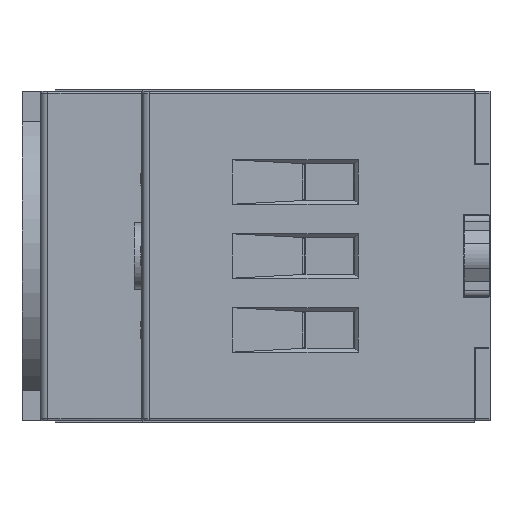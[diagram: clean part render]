
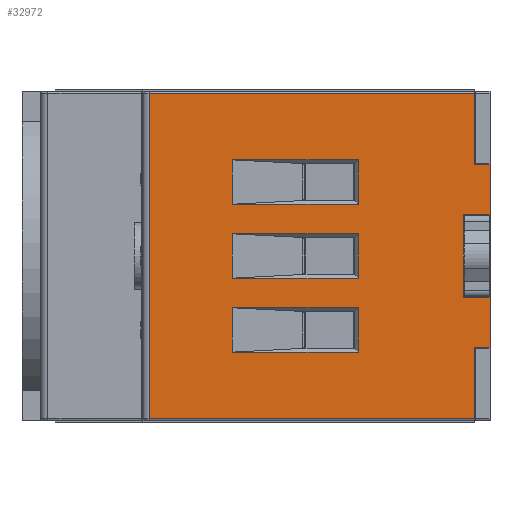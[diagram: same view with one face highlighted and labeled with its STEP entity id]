
A CAD part, left-side view. The second image highlights one B-rep face of the part: STEP entity #32972.
In plain terms, the highlighted planar face has unit normal (-1, 0, 0).
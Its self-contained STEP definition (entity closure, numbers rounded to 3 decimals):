
#3923=ORIENTED_EDGE('',*,*,#12739,.T.);
#3924=ORIENTED_EDGE('',*,*,#12740,.F.);
#3925=ORIENTED_EDGE('',*,*,#12741,.F.);
#3926=ORIENTED_EDGE('',*,*,#12742,.F.);
#3927=ORIENTED_EDGE('',*,*,#12743,.T.);
#3928=ORIENTED_EDGE('',*,*,#12744,.F.);
#3929=ORIENTED_EDGE('',*,*,#12745,.F.);
#3930=ORIENTED_EDGE('',*,*,#12746,.F.);
#3931=ORIENTED_EDGE('',*,*,#12747,.T.);
#3932=ORIENTED_EDGE('',*,*,#12748,.F.);
#3933=ORIENTED_EDGE('',*,*,#12749,.F.);
#3934=ORIENTED_EDGE('',*,*,#12750,.F.);
#3935=ORIENTED_EDGE('',*,*,#12751,.T.);
#3936=ORIENTED_EDGE('',*,*,#12752,.F.);
#3937=ORIENTED_EDGE('',*,*,#12753,.F.);
#3938=ORIENTED_EDGE('',*,*,#12754,.F.);
#3939=ORIENTED_EDGE('',*,*,#12755,.T.);
#3940=ORIENTED_EDGE('',*,*,#12756,.T.);
#3941=ORIENTED_EDGE('',*,*,#12757,.T.);
#3942=ORIENTED_EDGE('',*,*,#12758,.T.);
#3943=ORIENTED_EDGE('',*,*,#12576,.T.);
#3944=ORIENTED_EDGE('',*,*,#12580,.T.);
#3945=ORIENTED_EDGE('',*,*,#12759,.T.);
#3946=ORIENTED_EDGE('',*,*,#12760,.T.);
#12576=EDGE_CURVE('',#17455,#17456,#21082,.T.);
#12580=EDGE_CURVE('',#17456,#17459,#21086,.T.);
#12739=EDGE_CURVE('',#17599,#17600,#21217,.T.);
#12740=EDGE_CURVE('',#17601,#17600,#21218,.T.);
#12741=EDGE_CURVE('',#17602,#17601,#21219,.T.);
#12742=EDGE_CURVE('',#17599,#17602,#21220,.T.);
#12743=EDGE_CURVE('',#17603,#17604,#21221,.T.);
#12744=EDGE_CURVE('',#17605,#17604,#21222,.T.);
#12745=EDGE_CURVE('',#17606,#17605,#21223,.T.);
#12746=EDGE_CURVE('',#17603,#17606,#21224,.T.);
#12747=EDGE_CURVE('',#17607,#17608,#21225,.T.);
#12748=EDGE_CURVE('',#17609,#17608,#21226,.T.);
#12749=EDGE_CURVE('',#17610,#17609,#21227,.T.);
#12750=EDGE_CURVE('',#17607,#17610,#21228,.T.);
#12751=EDGE_CURVE('',#17611,#17612,#21229,.T.);
#12752=EDGE_CURVE('',#17613,#17612,#21230,.T.);
#12753=EDGE_CURVE('',#17614,#17613,#21231,.T.);
#12754=EDGE_CURVE('',#17615,#17614,#21232,.T.);
#12755=EDGE_CURVE('',#17615,#17616,#21233,.T.);
#12756=EDGE_CURVE('',#17616,#17617,#21234,.T.);
#12757=EDGE_CURVE('',#17617,#17618,#21235,.T.);
#12758=EDGE_CURVE('',#17618,#17455,#21236,.T.);
#12759=EDGE_CURVE('',#17459,#17619,#21237,.T.);
#12760=EDGE_CURVE('',#17619,#17611,#21238,.T.);
#17455=VERTEX_POINT('',#57811);
#17456=VERTEX_POINT('',#57812);
#17459=VERTEX_POINT('',#57820);
#17599=VERTEX_POINT('',#58162);
#17600=VERTEX_POINT('',#58163);
#17601=VERTEX_POINT('',#58165);
#17602=VERTEX_POINT('',#58167);
#17603=VERTEX_POINT('',#58170);
#17604=VERTEX_POINT('',#58171);
#17605=VERTEX_POINT('',#58173);
#17606=VERTEX_POINT('',#58175);
#17607=VERTEX_POINT('',#58178);
#17608=VERTEX_POINT('',#58179);
#17609=VERTEX_POINT('',#58181);
#17610=VERTEX_POINT('',#58183);
#17611=VERTEX_POINT('',#58186);
#17612=VERTEX_POINT('',#58187);
#17613=VERTEX_POINT('',#58189);
#17614=VERTEX_POINT('',#58191);
#17615=VERTEX_POINT('',#58193);
#17616=VERTEX_POINT('',#58195);
#17617=VERTEX_POINT('',#58197);
#17618=VERTEX_POINT('',#58199);
#17619=VERTEX_POINT('',#58202);
#21082=LINE('',#57810,#24705);
#21086=LINE('',#57819,#24709);
#21217=LINE('',#58161,#24840);
#21218=LINE('',#58164,#24841);
#21219=LINE('',#58166,#24842);
#21220=LINE('',#58168,#24843);
#21221=LINE('',#58169,#24844);
#21222=LINE('',#58172,#24845);
#21223=LINE('',#58174,#24846);
#21224=LINE('',#58176,#24847);
#21225=LINE('',#58177,#24848);
#21226=LINE('',#58180,#24849);
#21227=LINE('',#58182,#24850);
#21228=LINE('',#58184,#24851);
#21229=LINE('',#58185,#24852);
#21230=LINE('',#58188,#24853);
#21231=LINE('',#58190,#24854);
#21232=LINE('',#58192,#24855);
#21233=LINE('',#58194,#24856);
#21234=LINE('',#58196,#24857);
#21235=LINE('',#58198,#24858);
#21236=LINE('',#58200,#24859);
#21237=LINE('',#58201,#24860);
#21238=LINE('',#58203,#24861);
#24705=VECTOR('',#49482,1000.);
#24709=VECTOR('',#49488,1000.);
#24840=VECTOR('',#49761,1000.);
#24841=VECTOR('',#49762,1000.);
#24842=VECTOR('',#49763,1000.);
#24843=VECTOR('',#49764,1000.);
#24844=VECTOR('',#49765,1000.);
#24845=VECTOR('',#49766,1000.);
#24846=VECTOR('',#49767,1000.);
#24847=VECTOR('',#49768,1000.);
#24848=VECTOR('',#49769,1000.);
#24849=VECTOR('',#49770,1000.);
#24850=VECTOR('',#49771,1000.);
#24851=VECTOR('',#49772,1000.);
#24852=VECTOR('',#49773,1000.);
#24853=VECTOR('',#49774,1000.);
#24854=VECTOR('',#49775,1000.);
#24855=VECTOR('',#49776,1000.);
#24856=VECTOR('',#49777,1000.);
#24857=VECTOR('',#49778,1000.);
#24858=VECTOR('',#49779,1000.);
#24859=VECTOR('',#49780,1000.);
#24860=VECTOR('',#49781,1000.);
#24861=VECTOR('',#49782,1000.);
#27860=EDGE_LOOP('',(#3923,#3924,#3925,#3926));
#27861=EDGE_LOOP('',(#3927,#3928,#3929,#3930));
#27862=EDGE_LOOP('',(#3931,#3932,#3933,#3934));
#27863=EDGE_LOOP('',(#3935,#3936,#3937,#3938,#3939,#3940,#3941,#3942,#3943,
#3944,#3945,#3946));
#29821=FACE_BOUND('',#27860,.T.);
#29822=FACE_BOUND('',#27861,.T.);
#29823=FACE_BOUND('',#27862,.T.);
#29824=FACE_BOUND('',#27863,.T.);
#31638=PLANE('',#45926);
#32972=ADVANCED_FACE('',(#29821,#29822,#29823,#29824),#31638,.T.);
#45926=AXIS2_PLACEMENT_3D('',#58160,#49759,#49760);
#49482=DIRECTION('',(0.,0.,1.));
#49488=DIRECTION('',(0.,-1.,0.));
#49759=DIRECTION('',(-1.,0.,0.));
#49760=DIRECTION('',(0.,0.,1.));
#49761=DIRECTION('',(0.,0.,1.));
#49762=DIRECTION('',(0.,1.,0.));
#49763=DIRECTION('',(0.,0.,1.));
#49764=DIRECTION('',(0.,-1.,0.));
#49765=DIRECTION('',(0.,0.,1.));
#49766=DIRECTION('',(0.,1.,0.));
#49767=DIRECTION('',(0.,0.,1.));
#49768=DIRECTION('',(0.,-1.,0.));
#49769=DIRECTION('',(0.,0.,1.));
#49770=DIRECTION('',(0.,1.,0.));
#49771=DIRECTION('',(0.,0.,1.));
#49772=DIRECTION('',(0.,-1.,0.));
#49773=DIRECTION('',(0.,0.,1.));
#49774=DIRECTION('',(0.,-1.,0.));
#49775=DIRECTION('',(0.,0.,1.));
#49776=DIRECTION('',(0.,1.,0.));
#49777=DIRECTION('',(0.,0.,1.));
#49778=DIRECTION('',(0.,-1.,0.));
#49779=DIRECTION('',(0.,0.,1.));
#49780=DIRECTION('',(0.,1.,0.));
#49781=DIRECTION('',(0.,0.,1.));
#49782=DIRECTION('',(0.,1.,0.));
#57810=CARTESIAN_POINT('',(-37.5,0.,85.95));
#57811=CARTESIAN_POINT('',(-37.5,0.,94.4));
#57812=CARTESIAN_POINT('',(-37.5,0.,105.6));
#57819=CARTESIAN_POINT('',(-37.5,-1.8,105.6));
#57820=CARTESIAN_POINT('',(-37.5,-3.6,105.6));
#58160=CARTESIAN_POINT('',(-37.5,-3.6,77.5));
#58161=CARTESIAN_POINT('',(-37.5,31.241,83.75));
#58162=CARTESIAN_POINT('',(-37.5,31.241,87.));
#58163=CARTESIAN_POINT('',(-37.5,31.241,93.));
#58164=CARTESIAN_POINT('',(-37.5,9.05,93.));
#58165=CARTESIAN_POINT('',(-37.5,14.2,93.));
#58166=CARTESIAN_POINT('',(-37.5,14.2,85.));
#58167=CARTESIAN_POINT('',(-37.5,14.2,87.));
#58168=CARTESIAN_POINT('',(-37.5,5.55,87.));
#58169=CARTESIAN_POINT('',(-37.5,31.241,88.75));
#58170=CARTESIAN_POINT('',(-37.5,31.241,97.));
#58171=CARTESIAN_POINT('',(-37.5,31.241,103.));
#58172=CARTESIAN_POINT('',(-37.5,9.05,103.));
#58173=CARTESIAN_POINT('',(-37.5,14.2,103.));
#58174=CARTESIAN_POINT('',(-37.5,14.2,90.));
#58175=CARTESIAN_POINT('',(-37.5,14.2,97.));
#58176=CARTESIAN_POINT('',(-37.5,5.55,97.));
#58177=CARTESIAN_POINT('',(-37.5,31.241,93.75));
#58178=CARTESIAN_POINT('',(-37.5,31.241,107.));
#58179=CARTESIAN_POINT('',(-37.5,31.241,113.));
#58180=CARTESIAN_POINT('',(-37.5,9.05,113.));
#58181=CARTESIAN_POINT('',(-37.5,14.2,113.));
#58182=CARTESIAN_POINT('',(-37.5,14.2,95.));
#58183=CARTESIAN_POINT('',(-37.5,14.2,107.));
#58184=CARTESIAN_POINT('',(-37.5,5.55,107.));
#58185=CARTESIAN_POINT('',(-37.5,-1.5,100.));
#58186=CARTESIAN_POINT('',(-37.5,-1.5,112.4));
#58187=CARTESIAN_POINT('',(-37.5,-1.5,122.));
#58188=CARTESIAN_POINT('',(-37.5,8.175,122.));
#58189=CARTESIAN_POINT('',(-37.5,42.5,122.));
#58190=CARTESIAN_POINT('',(-37.5,42.5,100.));
#58191=CARTESIAN_POINT('',(-37.5,42.5,78.));
#58192=CARTESIAN_POINT('',(-37.5,8.175,78.));
#58193=CARTESIAN_POINT('',(-37.5,-1.5,78.));
#58194=CARTESIAN_POINT('',(-37.5,-1.5,100.));
#58195=CARTESIAN_POINT('',(-37.5,-1.5,87.6));
#58196=CARTESIAN_POINT('',(-37.5,-1.5,87.6));
#58197=CARTESIAN_POINT('',(-37.5,-3.6,87.6));
#58198=CARTESIAN_POINT('',(-37.5,-3.6,87.6));
#58199=CARTESIAN_POINT('',(-37.5,-3.6,94.4));
#58200=CARTESIAN_POINT('',(-37.5,-3.6,94.4));
#58201=CARTESIAN_POINT('',(-37.5,-3.6,105.6));
#58202=CARTESIAN_POINT('',(-37.5,-3.6,112.4));
#58203=CARTESIAN_POINT('',(-37.5,-3.6,112.4));
